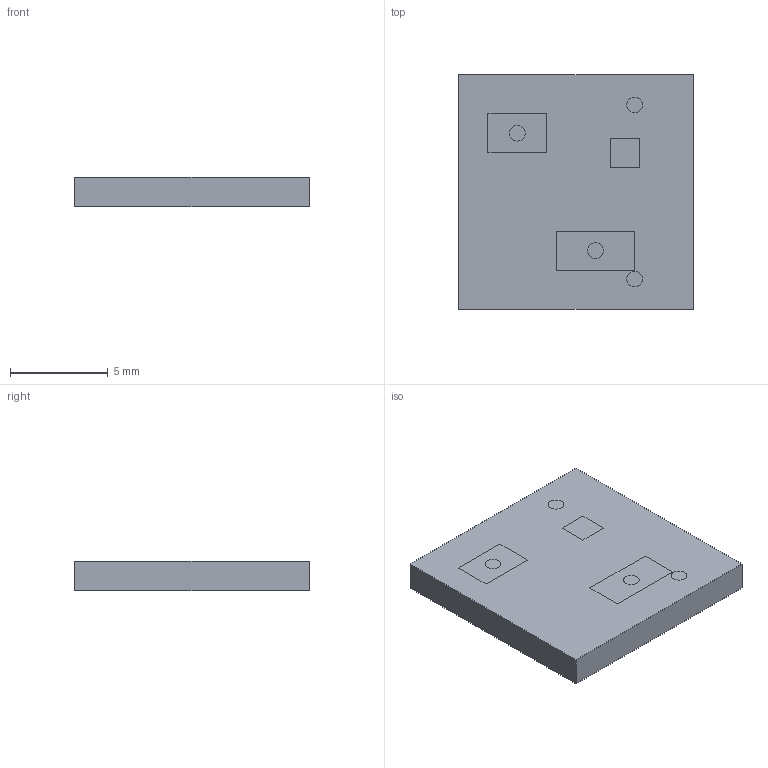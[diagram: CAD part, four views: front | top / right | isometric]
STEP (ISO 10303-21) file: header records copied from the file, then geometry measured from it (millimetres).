
FILE_DESCRIPTION(('Open CASCADE Model'),'2;1');
FILE_NAME('Open CASCADE Shape Model','2026-11-27T13:42:23',('Author'),( 'Open CASCADE'),'Open CASCADE STEP processor 7.9','Open CASCADE 7.9' ,'Unknown');
FILE_SCHEMA(('AUTOMOTIVE_DESIGN { 1 0 10303 214 1 1 1 1 }'));
Length unit declared in the file: millimetre
Products named in the file (3): manifold_N25; fluid; solid
Assembly tree (2 placements, depth 2):
  manifold_N25
    fluid
    solid
Bounding box: 12 x 12 x 1.5 mm (x, y, z)
Volume: 216 mm3; surface area: 1208.5 mm2
Topology: 2 solids, 2 shells, 906 faces, 2942 edges, 1758 vertices
Faces by surface type: plane 898, cylinder 8
Full cylindrical faces by diameter (mm): 0.8 x8
Entity records: 70078 total; most frequent: CARTESIAN_POINT 12663, DIRECTION 10396, LINE 8250, VECTOR 8250, ORIENTED_EDGE 5884, PCURVE 5884, DEFINITIONAL_REPRESENTATION 5884, EDGE_CURVE 2942
